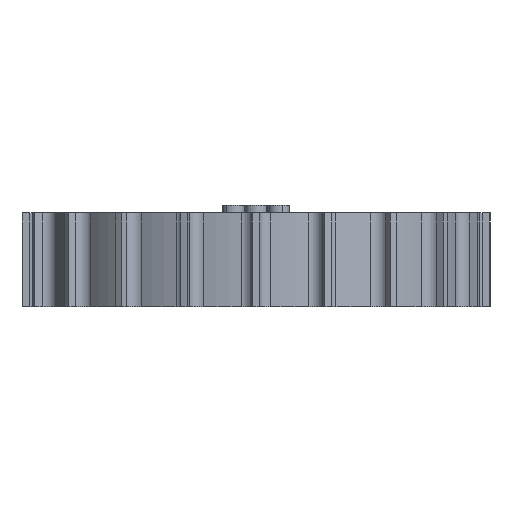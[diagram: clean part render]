
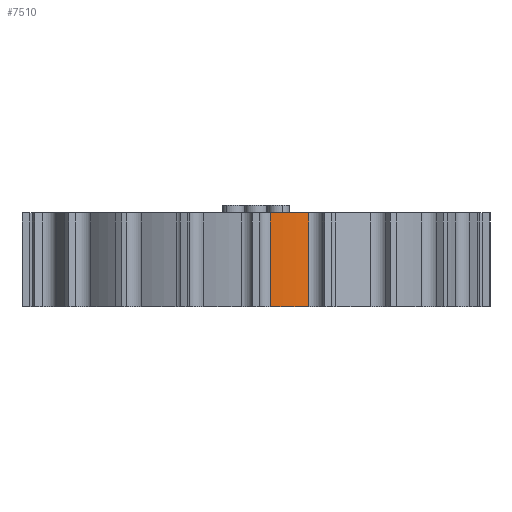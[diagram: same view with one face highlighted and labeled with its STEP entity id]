
A CAD part, front view. The second image highlights one B-rep face of the part: STEP entity #7510.
In plain terms, the highlighted cylindrical face has radius 57.5 mm (diameter 115 mm), a partial arc.
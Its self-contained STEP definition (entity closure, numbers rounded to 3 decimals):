
#118 = AXIS2_PLACEMENT_3D ( 'NONE', #4580, #2707, #308 ) ;
#308 = DIRECTION ( 'NONE',  ( -1., 0., 0. ) ) ;
#731 = CIRCLE ( 'NONE', #10025, 57.5 ) ;
#1672 = ORIENTED_EDGE ( 'NONE', *, *, #10612, .F. ) ;
#1805 = LINE ( 'NONE', #3846, #11190 ) ;
#1969 = CARTESIAN_POINT ( 'NONE',  ( 14.114, -55.741, 25. ) ) ;
#2043 = ORIENTED_EDGE ( 'NONE', *, *, #6154, .T. ) ;
#2707 = DIRECTION ( 'NONE',  ( 0., 0., -1. ) ) ;
#2998 = VERTEX_POINT ( 'NONE', #9224 ) ;
#3462 = EDGE_LOOP ( 'NONE', ( #2043, #8029, #1672, #3900 ) ) ;
#3846 = CARTESIAN_POINT ( 'NONE',  ( 14.114, -55.741, -9.624 ) ) ;
#3900 = ORIENTED_EDGE ( 'NONE', *, *, #5876, .F. ) ;
#3902 = CARTESIAN_POINT ( 'NONE',  ( 3.802, -57.374, 25. ) ) ;
#4421 = DIRECTION ( 'NONE',  ( 1., 0., 0. ) ) ;
#4580 = CARTESIAN_POINT ( 'NONE',  ( 0., 0., 25. ) ) ;
#4805 = AXIS2_PLACEMENT_3D ( 'NONE', #7473, #10091, #6601 ) ;
#5876 = EDGE_CURVE ( 'NONE', #7285, #9657, #7050, .T. ) ;
#6019 = CARTESIAN_POINT ( 'NONE',  ( 3.802, -57.374, 0. ) ) ;
#6154 = EDGE_CURVE ( 'NONE', #7285, #2998, #731, .T. ) ;
#6417 = DIRECTION ( 'NONE',  ( 0., 0., 1. ) ) ;
#6601 = DIRECTION ( 'NONE',  ( 1., 0., 0. ) ) ;
#7050 = LINE ( 'NONE', #8699, #11212 ) ;
#7285 = VERTEX_POINT ( 'NONE', #6019 ) ;
#7473 = CARTESIAN_POINT ( 'NONE',  ( 0., 0., 25. ) ) ;
#7510 = ADVANCED_FACE ( 'NONE', ( #10586 ), #9786, .T. ) ;
#7800 = CARTESIAN_POINT ( 'NONE',  ( 0., 0., 0. ) ) ;
#8029 = ORIENTED_EDGE ( 'NONE', *, *, #10904, .T. ) ;
#8644 = DIRECTION ( 'NONE',  ( 0., 0., 1. ) ) ;
#8699 = CARTESIAN_POINT ( 'NONE',  ( 3.802, -57.374, -9.17 ) ) ;
#9224 = CARTESIAN_POINT ( 'NONE',  ( 14.114, -55.741, 0. ) ) ;
#9420 = VERTEX_POINT ( 'NONE', #1969 ) ;
#9499 = DIRECTION ( 'NONE',  ( 0., 0., 1. ) ) ;
#9657 = VERTEX_POINT ( 'NONE', #3902 ) ;
#9739 = CIRCLE ( 'NONE', #4805, 57.5 ) ;
#9786 = CYLINDRICAL_SURFACE ( 'NONE', #118, 57.5 ) ;
#10025 = AXIS2_PLACEMENT_3D ( 'NONE', #7800, #8644, #4421 ) ;
#10091 = DIRECTION ( 'NONE',  ( 0., 0., 1. ) ) ;
#10586 = FACE_OUTER_BOUND ( 'NONE', #3462, .T. ) ;
#10612 = EDGE_CURVE ( 'NONE', #9657, #9420, #9739, .T. ) ;
#10904 = EDGE_CURVE ( 'NONE', #2998, #9420, #1805, .T. ) ;
#11190 = VECTOR ( 'NONE', #6417, 1000. ) ;
#11212 = VECTOR ( 'NONE', #9499, 1000. ) ;
